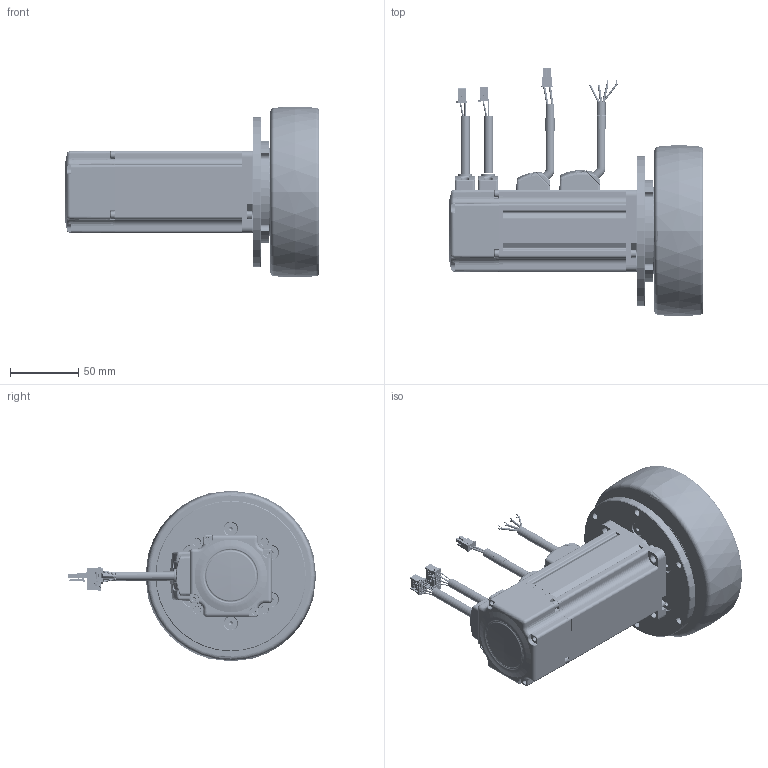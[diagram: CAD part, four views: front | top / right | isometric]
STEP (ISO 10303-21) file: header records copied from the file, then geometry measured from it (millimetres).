
FILE_DESCRIPTION((''),'2;1');
FILE_NAME('MSD125--020-30GEL-B_ASM','2026-05-21T14:57:40',('MS28159'),(''),'CREO PARAMETRIC BY PTC INC, 2018100','CREO PARAMETRIC BY PTC INC, 2018100','');
FILE_SCHEMA(('CONFIG_CONTROL_DESIGN'));
Products named in the file (17): M5-10-6-SOLID10001_1_1; M5-10-3-SOLID10001_1_1; 0226-1-1-SOLID1000_1_1; NONE_1_1_1; M5-10-2-SOLID10001_1_1; M5-10-5-SOLID10001_1_1; M5-10-1-SOLID10001_1_1; M5-10-4-SOLID10001_1_1; 125_X2_8F6E5F84_X0_-9_X2_6BD4_1_ASM; 1_100_1_1; __3_10001_1_1; 3698201102333_80SV__X2_530580_2_ASM; ASM0006_ASM_1_ASM_1_ASM; AEQ092-09-8_43_ASM_1_ASM_1_ASM; MSD125--020-30GL-0001_ASM_1_ASM; SM0601-EL-KCY-BNV_ASM; MSD125--020-30GEL-B_ASM
Assembly tree (16 placements, depth 6):
  MSD125--020-30GEL-B_ASM
    MSD125--020-30GL-0001_ASM_1_ASM
      AEQ092-09-8_43_ASM_1_ASM_1_ASM
        125_X2_8F6E5F84_X0_-9_X2_6BD4_1_ASM
          M5-10-6-SOLID10001_1_1
          M5-10-3-SOLID10001_1_1
          0226-1-1-SOLID1000_1_1
          NONE_1_1_1
          M5-10-2-SOLID10001_1_1
          M5-10-5-SOLID10001_1_1
          M5-10-1-SOLID10001_1_1
          M5-10-4-SOLID10001_1_1
        ASM0006_ASM_1_ASM_1_ASM
          3698201102333_80SV__X2_530580_2_ASM
            1_100_1_1
            __3_10001_1_1
    SM0601-EL-KCY-BNV_ASM
Bounding box: 186.3 x 181.44 x 124.79 mm (x, y, z)
Volume: 433288.4 mm3; surface area: 275264.2 mm2
Topology: 10 solids, 77 shells, 4603 faces, 11882 edges, 7457 vertices
Faces by surface type: plane 1882, cylinder 1242, cone 508, torus 345, bspline 295, extrusion 191, sphere 140
Entity records: 233746 total; most frequent: CARTESIAN_POINT 123492, ORIENTED_EDGE 23324, DIRECTION 22011, EDGE_CURVE 11674, AXIS2_PLACEMENT_3D 7923, VERTEX_POINT 7457, VECTOR 6165, LINE 5974
